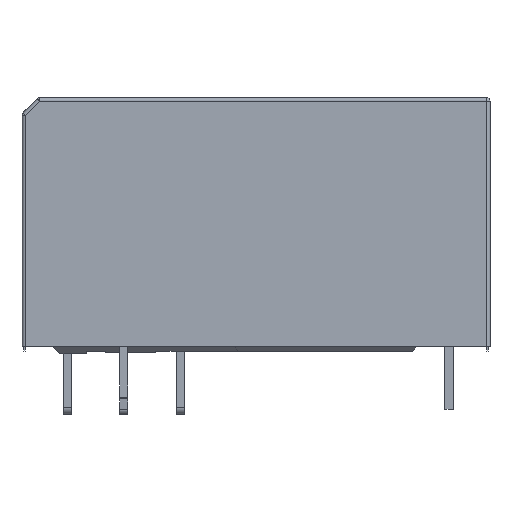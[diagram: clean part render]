
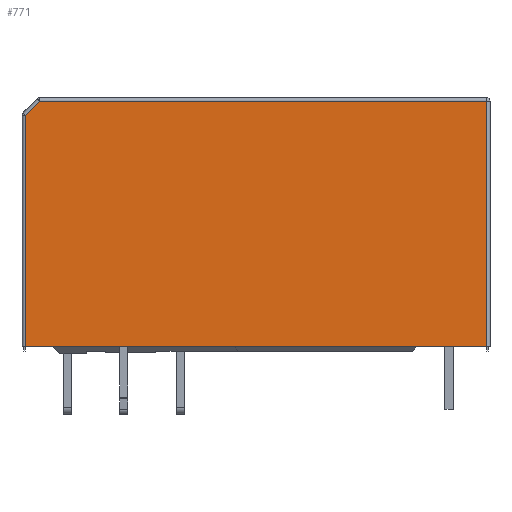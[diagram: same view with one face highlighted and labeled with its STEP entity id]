
A CAD part, front view. The second image highlights one B-rep face of the part: STEP entity #771.
In plain terms, the highlighted planar face has unit normal (0, -1, 0).
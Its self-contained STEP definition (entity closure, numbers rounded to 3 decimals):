
#522 = VERTEX_POINT('',#523);
#523 = CARTESIAN_POINT('',(22.5,-6.25,-0.5));
#530 = EDGE_CURVE('',#531,#522,#533,.T.);
#531 = VERTEX_POINT('',#532);
#532 = CARTESIAN_POINT('',(-6.1,-6.25,-0.5));
#533 = LINE('',#534,#535);
#534 = CARTESIAN_POINT('',(-6.3,-6.25,-0.5));
#535 = VECTOR('',#536,1.);
#536 = DIRECTION('',(1.,0.,0.));
#771 = ADVANCED_FACE('',(#772),#805,.T.);
#772 = FACE_BOUND('',#773,.T.);
#773 = EDGE_LOOP('',(#774,#784,#792,#798,#799));
#774 = ORIENTED_EDGE('',*,*,#775,.T.);
#775 = EDGE_CURVE('',#776,#778,#780,.T.);
#776 = VERTEX_POINT('',#777);
#777 = CARTESIAN_POINT('',(22.5,-6.25,14.7));
#778 = VERTEX_POINT('',#779);
#779 = CARTESIAN_POINT('',(-5.217,-6.25,14.7));
#780 = LINE('',#781,#782);
#781 = CARTESIAN_POINT('',(-5.3,-6.25,14.7));
#782 = VECTOR('',#783,1.);
#783 = DIRECTION('',(-1.,0.,0.));
#784 = ORIENTED_EDGE('',*,*,#785,.T.);
#785 = EDGE_CURVE('',#778,#786,#788,.T.);
#786 = VERTEX_POINT('',#787);
#787 = CARTESIAN_POINT('',(-6.1,-6.25,13.817));
#788 = LINE('',#789,#790);
#789 = CARTESIAN_POINT('',(-13.359,-6.25,6.559));
#790 = VECTOR('',#791,1.);
#791 = DIRECTION('',(-0.707,0.,-0.707));
#792 = ORIENTED_EDGE('',*,*,#793,.T.);
#793 = EDGE_CURVE('',#786,#531,#794,.T.);
#794 = LINE('',#795,#796);
#795 = CARTESIAN_POINT('',(-6.1,-6.25,-0.5));
#796 = VECTOR('',#797,1.);
#797 = DIRECTION('',(0.,0.,-1.));
#798 = ORIENTED_EDGE('',*,*,#530,.T.);
#799 = ORIENTED_EDGE('',*,*,#800,.T.);
#800 = EDGE_CURVE('',#522,#776,#801,.T.);
#801 = LINE('',#802,#803);
#802 = CARTESIAN_POINT('',(22.5,-6.25,-0.5));
#803 = VECTOR('',#804,1.);
#804 = DIRECTION('',(0.,0.,1.));
#805 = PLANE('',#806);
#806 = AXIS2_PLACEMENT_3D('',#807,#808,#809);
#807 = CARTESIAN_POINT('',(-6.3,-6.25,-0.5));
#808 = DIRECTION('',(0.,-1.,0.));
#809 = DIRECTION('',(0.,0.,-1.));
